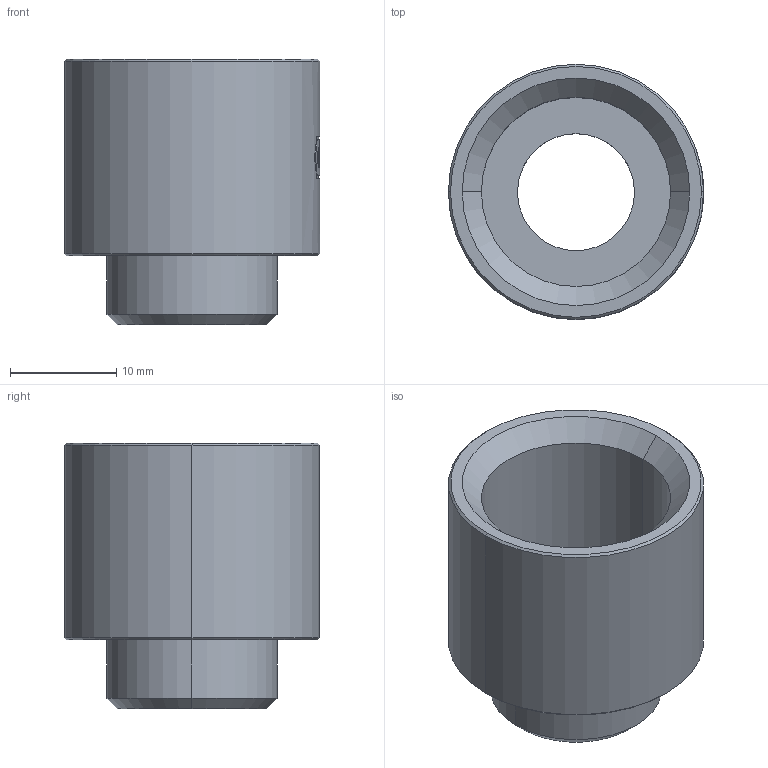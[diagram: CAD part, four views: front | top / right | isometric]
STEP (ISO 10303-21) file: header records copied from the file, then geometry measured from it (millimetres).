
FILE_DESCRIPTION (( 'STEP AP203' ), '1' );
FILE_NAME ('M16NPT1-2.STEP', '2006-05-23T09:52:22', ( ' ' ), ( '' ), 'SwSTEP 2.0', 'SolidWorks 2005278', '' );
FILE_SCHEMA (( 'CONFIG_CONTROL_DESIGN' ));
Length unit declared in the file: millimetre
Products named in the file (1): M16NPT1-2
Bounding box: 24 x 24 x 25 mm (x, y, z)
Volume: 4479.2 mm3; surface area: 3566.3 mm2
Topology: 1 solids, 1 shells, 60 faces, 153 edges, 98 vertices
Faces by surface type: plane 38, cylinder 12, cone 10
Entity records: 1918 total; most frequent: CARTESIAN_POINT 372, DIRECTION 311, ORIENTED_EDGE 306, EDGE_CURVE 153, AXIS2_PLACEMENT_3D 117, VERTEX_POINT 98, VECTOR 77, LINE 77
